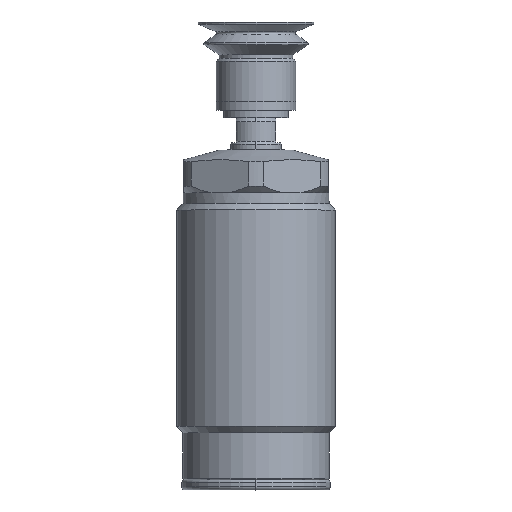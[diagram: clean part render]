
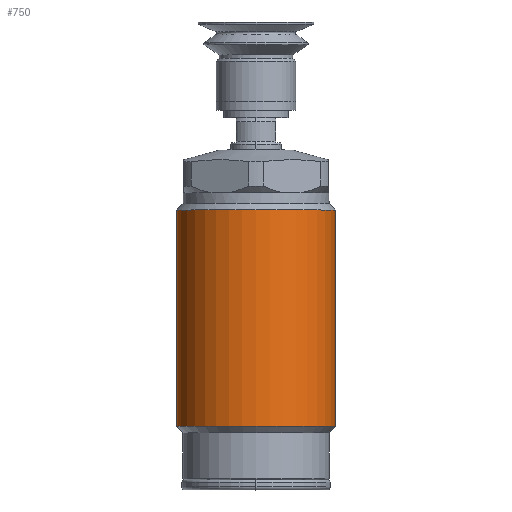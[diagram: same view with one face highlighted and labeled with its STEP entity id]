
A CAD part, top view. The second image highlights one B-rep face of the part: STEP entity #750.
In plain terms, the highlighted cylindrical face has radius 11 mm (diameter 22 mm), a full revolution.
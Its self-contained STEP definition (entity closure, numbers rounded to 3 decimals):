
#299=FACE_BOUND('',#1067,.T.);
#300=FACE_BOUND('',#1068,.T.);
#488=CYLINDRICAL_SURFACE('',#2794,11.);
#558=LINE('',#4201,#643);
#559=LINE('',#4206,#644);
#643=VECTOR('',#3374,1.);
#644=VECTOR('',#3377,1.);
#750=ADVANCED_FACE('',(#299,#300),#488,.T.);
#1067=EDGE_LOOP('',(#1475));
#1068=EDGE_LOOP('',(#1476,#1477,#1478,#1479,#1480,#1481));
#1475=ORIENTED_EDGE('',*,*,#2241,.T.);
#1476=ORIENTED_EDGE('',*,*,#2242,.F.);
#1477=ORIENTED_EDGE('',*,*,#2242,.T.);
#1478=ORIENTED_EDGE('',*,*,#2243,.F.);
#1479=ORIENTED_EDGE('',*,*,#2244,.F.);
#1480=ORIENTED_EDGE('',*,*,#2244,.T.);
#1481=ORIENTED_EDGE('',*,*,#2245,.F.);
#1979=VERTEX_POINT('',#4200);
#1980=VERTEX_POINT('',#4202);
#1981=VERTEX_POINT('',#4203);
#1982=VERTEX_POINT('',#4205);
#1983=VERTEX_POINT('',#4207);
#2241=EDGE_CURVE('',#1979,#1979,#2526,.T.);
#2242=EDGE_CURVE('',#1980,#1981,#558,.T.);
#2243=EDGE_CURVE('',#1982,#1981,#2527,.T.);
#2244=EDGE_CURVE('',#1983,#1982,#559,.T.);
#2245=EDGE_CURVE('',#1981,#1982,#2528,.T.);
#2526=CIRCLE('',#2791,11.);
#2527=CIRCLE('',#2792,11.);
#2528=CIRCLE('',#2793,11.);
#2791=AXIS2_PLACEMENT_3D('',#4199,#3372,#3373);
#2792=AXIS2_PLACEMENT_3D('',#4204,#3375,#3376);
#2793=AXIS2_PLACEMENT_3D('',#4208,#3378,#3379);
#2794=AXIS2_PLACEMENT_3D('',#4209,#3380,#3381);
#3372=DIRECTION('',(0.,-1.,0.));
#3373=DIRECTION('',(1.,0.,0.));
#3374=DIRECTION('',(0.,-1.,0.));
#3375=DIRECTION('',(0.,-1.,0.));
#3376=DIRECTION('',(-1.,0.,0.));
#3377=DIRECTION('',(0.,-1.,0.));
#3378=DIRECTION('',(0.,-1.,0.));
#3379=DIRECTION('',(-1.,0.,0.));
#3380=DIRECTION('',(0.,-1.,0.));
#3381=DIRECTION('',(-1.,0.,0.));
#4199=CARTESIAN_POINT('',(0.,37.4,0.));
#4200=CARTESIAN_POINT('',(11.,37.4,0.));
#4201=CARTESIAN_POINT('',(11.,0.,0.));
#4202=CARTESIAN_POINT('',(11.,36.456,0.));
#4203=CARTESIAN_POINT('',(11.,7.5,0.));
#4204=CARTESIAN_POINT('',(0.,7.5,0.));
#4205=CARTESIAN_POINT('',(-11.,7.5,0.));
#4206=CARTESIAN_POINT('',(-11.,0.,0.));
#4207=CARTESIAN_POINT('',(-11.,36.456,0.));
#4208=CARTESIAN_POINT('',(0.,7.5,0.));
#4209=CARTESIAN_POINT('',(0.,0.,0.));
